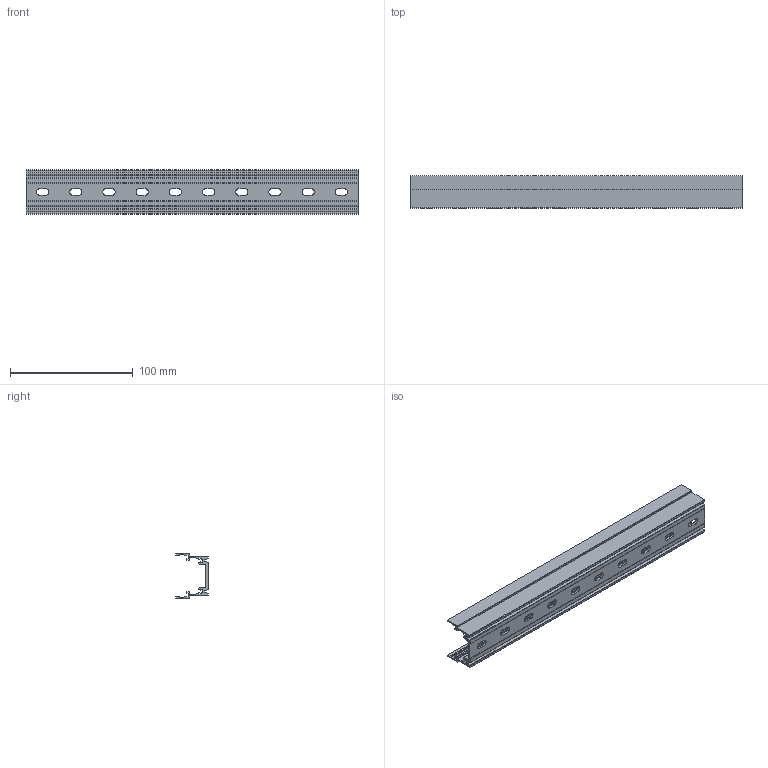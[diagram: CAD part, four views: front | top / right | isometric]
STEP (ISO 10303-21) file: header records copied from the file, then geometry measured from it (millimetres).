
FILE_DESCRIPTION( ( 'STEP AP203' ), '1' );
FILE_NAME( 'C:/Temp/Ganter_Step_05_03_2020/data/3_8/gn_646_3/Carrier profile GN 646.3-270-B (15).stp', '2020-03-12T15:24:24', ( 'License CC BY-ND 4.0' ), ( 'CADENAS' ), ' ', 'PARTsolutions', ' ' );
FILE_SCHEMA( ( 'CONFIG_CONTROL_DESIGN' ) );
Length unit declared in the file: millimetre
Products named in the file (1): _Carrier profile GN 646.3-270-B (15)
Bounding box: 270 x 26.5 x 36 mm (x, y, z)
Volume: 44520.9 mm3; surface area: 56546 mm2
Topology: 1 solids, 1 shells, 152 faces, 450 edges, 300 vertices
Faces by surface type: plane 90, cylinder 62
Entity records: 5182 total; most frequent: CARTESIAN_POINT 903, ORIENTED_EDGE 900, DIRECTION 880, EDGE_CURVE 450, LINE 326, VECTOR 326, VERTEX_POINT 300, AXIS2_PLACEMENT_3D 277
